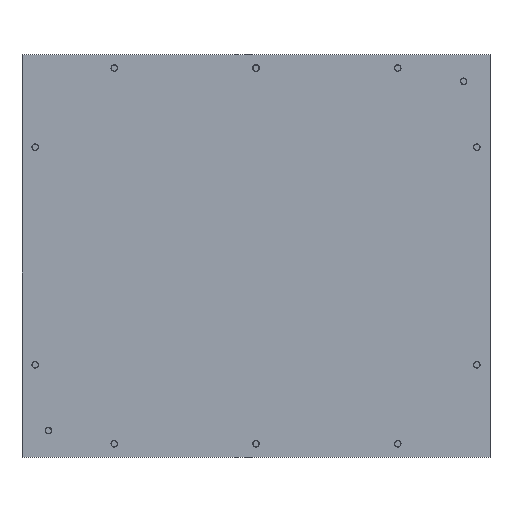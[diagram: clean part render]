
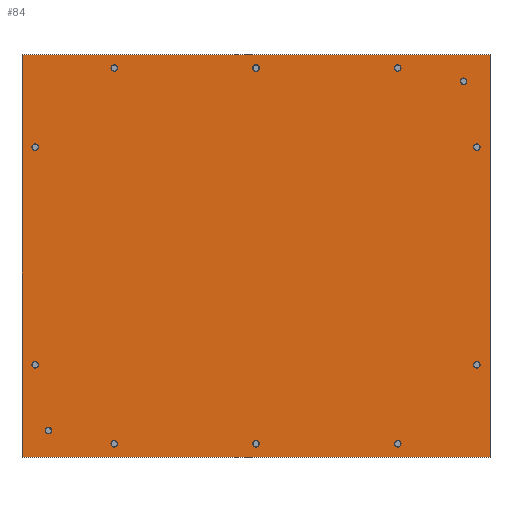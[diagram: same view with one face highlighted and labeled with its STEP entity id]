
A CAD part, top view. The second image highlights one B-rep face of the part: STEP entity #84.
In plain terms, the highlighted planar face has unit normal (0, 0, 1).
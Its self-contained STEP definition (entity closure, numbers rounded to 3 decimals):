
#10 = DIRECTION ( 'NONE',  ( 0., -1., 0. ) ) ;
#18 = CARTESIAN_POINT ( 'NONE',  ( 177.5, -152.5, 0. ) ) ;
#58 = VECTOR ( 'NONE', #10, 1000. ) ;
#63 = VERTEX_POINT ( 'NONE', #312 ) ;
#68 = VERTEX_POINT ( 'NONE', #337 ) ;
#82 = CARTESIAN_POINT ( 'NONE',  ( 177.5, -152.5, 0. ) ) ;
#84 = ADVANCED_FACE ( 'NONE', ( #221 ), #99, .F. ) ;
#93 = DIRECTION ( 'NONE',  ( -1., 0., 0. ) ) ;
#97 = ORIENTED_EDGE ( 'NONE', *, *, #174, .T. ) ;
#99 = PLANE ( 'NONE',  #383 ) ;
#113 = DIRECTION ( 'NONE',  ( 0., 1., 0. ) ) ;
#127 = LINE ( 'NONE', #440, #259 ) ;
#150 = CARTESIAN_POINT ( 'NONE',  ( -177.5, 152.5, 0. ) ) ;
#155 = LINE ( 'NONE', #363, #246 ) ;
#174 = EDGE_CURVE ( 'NONE', #63, #304, #127, .T. ) ;
#178 = LINE ( 'NONE', #18, #271 ) ;
#221 = FACE_OUTER_BOUND ( 'NONE', #330, .T. ) ;
#222 = CARTESIAN_POINT ( 'NONE',  ( 0., 0., 0. ) ) ;
#233 = EDGE_CURVE ( 'NONE', #68, #448, #155, .T. ) ;
#246 = VECTOR ( 'NONE', #326, 1000. ) ;
#259 = VECTOR ( 'NONE', #328, 1000. ) ;
#270 = CARTESIAN_POINT ( 'NONE',  ( -177.5, -152.5, 0. ) ) ;
#271 = VECTOR ( 'NONE', #113, 1000. ) ;
#304 = VERTEX_POINT ( 'NONE', #150 ) ;
#312 = CARTESIAN_POINT ( 'NONE',  ( 177.5, 152.5, 0. ) ) ;
#317 = LINE ( 'NONE', #270, #58 ) ;
#326 = DIRECTION ( 'NONE',  ( 1., 0., 0. ) ) ;
#328 = DIRECTION ( 'NONE',  ( -1., 0., 0. ) ) ;
#330 = EDGE_LOOP ( 'NONE', ( #414, #335, #430, #97 ) ) ;
#335 = ORIENTED_EDGE ( 'NONE', *, *, #233, .T. ) ;
#337 = CARTESIAN_POINT ( 'NONE',  ( -177.5, -152.5, 0. ) ) ;
#347 = DIRECTION ( 'NONE',  ( 0., 0., -1. ) ) ;
#363 = CARTESIAN_POINT ( 'NONE',  ( -177.5, -152.5, 0. ) ) ;
#383 = AXIS2_PLACEMENT_3D ( 'NONE', #222, #347, #93 ) ;
#400 = EDGE_CURVE ( 'NONE', #448, #63, #178, .T. ) ;
#414 = ORIENTED_EDGE ( 'NONE', *, *, #420, .T. ) ;
#420 = EDGE_CURVE ( 'NONE', #304, #68, #317, .T. ) ;
#430 = ORIENTED_EDGE ( 'NONE', *, *, #400, .T. ) ;
#440 = CARTESIAN_POINT ( 'NONE',  ( -177.5, 152.5, 0. ) ) ;
#448 = VERTEX_POINT ( 'NONE', #82 ) ;
